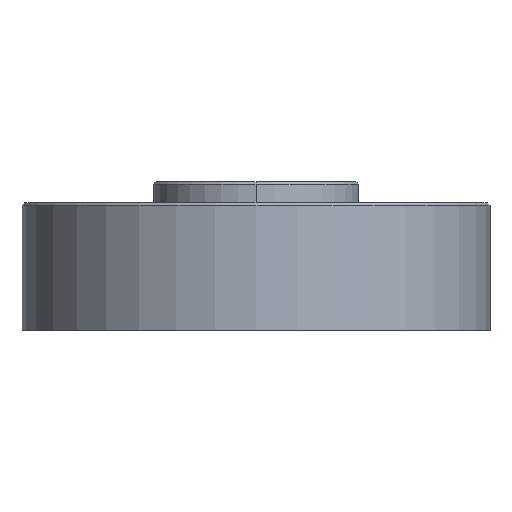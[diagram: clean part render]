
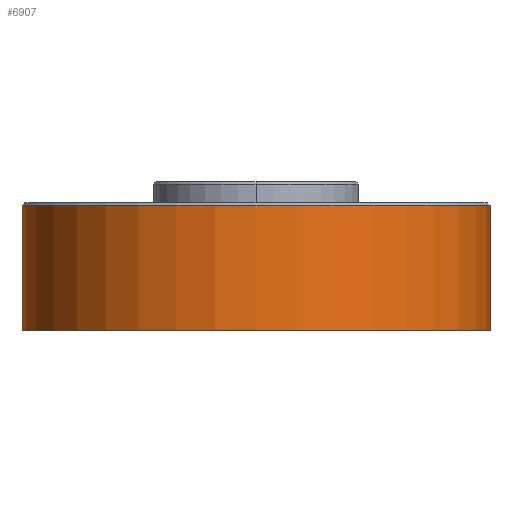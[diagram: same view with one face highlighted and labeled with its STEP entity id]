
A CAD part, left-side view. The second image highlights one B-rep face of the part: STEP entity #6907.
In plain terms, the highlighted cylindrical face has radius 139.649 mm (diameter 279.298 mm), a partial arc.
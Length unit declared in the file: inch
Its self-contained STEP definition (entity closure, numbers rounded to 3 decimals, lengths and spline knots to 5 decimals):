
#52 = CIRCLE ( 'NONE', #53, 5.498 ) ;
#53 = AXIS2_PLACEMENT_3D ( 'NONE', #54, #57, #58 ) ;
#54 = CARTESIAN_POINT ( 'NONE',  ( 0., 0., -2.999 ) ) ;
#57 = DIRECTION ( 'NONE',  ( 0., 0., 1. ) ) ;
#58 = DIRECTION ( 'NONE',  ( 0., 1., 0. ) ) ;
#886 = CARTESIAN_POINT ( 'NONE',  ( 0., -5.498, -2.999 ) ) ;
#1491 = EDGE_CURVE ( 'NONE', #5104, #5402, #6330, .T. ) ;
#1963 = CARTESIAN_POINT ( 'NONE',  ( 0., 5.498, -0.06 ) ) ;
#2209 = CIRCLE ( 'NONE', #2213, 5.498 ) ;
#2213 = AXIS2_PLACEMENT_3D ( 'NONE', #2214, #2215, #2216 ) ;
#2214 = CARTESIAN_POINT ( 'NONE',  ( 0., 0., -0.06 ) ) ;
#2215 = DIRECTION ( 'NONE',  ( 0., 0., 1. ) ) ;
#2216 = DIRECTION ( 'NONE',  ( -1., 0., 0. ) ) ;
#2398 = EDGE_CURVE ( 'NONE', #6048, #4939, #6970, .T. ) ;
#2519 = FACE_OUTER_BOUND ( 'NONE', #6662, .T. ) ;
#2520 = CYLINDRICAL_SURFACE ( 'NONE', #2521, 5.498 ) ;
#2521 = AXIS2_PLACEMENT_3D ( 'NONE', #2522, #2523, #2524 ) ;
#2522 = CARTESIAN_POINT ( 'NONE',  ( 0., 0., -0.06 ) ) ;
#2523 = DIRECTION ( 'NONE',  ( 0., 0., -1. ) ) ;
#2524 = DIRECTION ( 'NONE',  ( 0., 1., 0. ) ) ;
#2754 = CIRCLE ( 'NONE', #2755, 5.498 ) ;
#2755 = AXIS2_PLACEMENT_3D ( 'NONE', #2756, #2757, #2758 ) ;
#2756 = CARTESIAN_POINT ( 'NONE',  ( 0., 0., -2.999 ) ) ;
#2757 = DIRECTION ( 'NONE',  ( 0., 0., 1. ) ) ;
#2758 = DIRECTION ( 'NONE',  ( 0., 1., 0. ) ) ;
#3328 = CARTESIAN_POINT ( 'NONE',  ( -5.498, 0., -2.999 ) ) ;
#4368 = ORIENTED_EDGE ( 'NONE', *, *, #6439, .F. ) ;
#4420 = EDGE_CURVE ( 'NONE', #4939, #4541, #2754, .T. ) ;
#4432 = ORIENTED_EDGE ( 'NONE', *, *, #1491, .F. ) ;
#4541 = VERTEX_POINT ( 'NONE', #3328 ) ;
#4939 = VERTEX_POINT ( 'NONE', #7063 ) ;
#5104 = VERTEX_POINT ( 'NONE', #7729 ) ;
#5243 = EDGE_CURVE ( 'NONE', #4541, #5402, #52, .T. ) ;
#5402 = VERTEX_POINT ( 'NONE', #886 ) ;
#5486 = ORIENTED_EDGE ( 'NONE', *, *, #5243, .T. ) ;
#5563 = ORIENTED_EDGE ( 'NONE', *, *, #4420, .T. ) ;
#5953 = ORIENTED_EDGE ( 'NONE', *, *, #2398, .T. ) ;
#6048 = VERTEX_POINT ( 'NONE', #1963 ) ;
#6330 = LINE ( 'NONE', #6331, #6332 ) ;
#6331 = CARTESIAN_POINT ( 'NONE',  ( 0., -5.498, -0.06 ) ) ;
#6332 = VECTOR ( 'NONE', #6333, 39.37008 ) ;
#6333 = DIRECTION ( 'NONE',  ( 0., 0., -1. ) ) ;
#6439 = EDGE_CURVE ( 'NONE', #6048, #5104, #2209, .T. ) ;
#6662 = EDGE_LOOP ( 'NONE', ( #4432, #4368, #5953, #5563, #5486 ) ) ;
#6907 = ADVANCED_FACE ( 'NONE', ( #2519 ), #2520, .T. ) ;
#6970 = LINE ( 'NONE', #6971, #6972 ) ;
#6971 = CARTESIAN_POINT ( 'NONE',  ( 0., 5.498, -0.06 ) ) ;
#6972 = VECTOR ( 'NONE', #6973, 39.37008 ) ;
#6973 = DIRECTION ( 'NONE',  ( 0., 0., -1. ) ) ;
#7063 = CARTESIAN_POINT ( 'NONE',  ( 0., 5.498, -2.999 ) ) ;
#7729 = CARTESIAN_POINT ( 'NONE',  ( 0., -5.498, -0.06 ) ) ;
